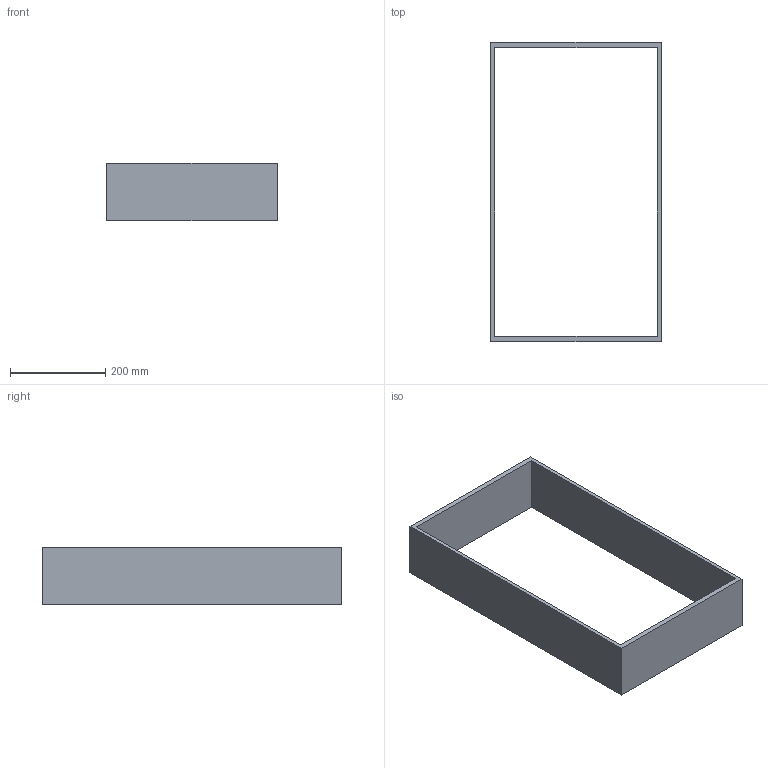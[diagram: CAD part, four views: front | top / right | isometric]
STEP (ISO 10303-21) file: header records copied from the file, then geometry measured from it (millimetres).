
FILE_DESCRIPTION (( 'STEP AP214' ), '1' );
FILE_NAME ('Vario Multi H120 NL650_B450_16 mm_Alu-Buche.step', '2010-10-08T09:47:49', ( 'grass' ), ( '' ), 'SwSTEP 2.0', 'SolidWorks 2010', '' );
FILE_SCHEMA (( 'AUTOMOTIVE_DESIGN' ));
Length unit declared in the file: millimetre
Products named in the file (1): Vario Multi H120 NL650_B450_16 mm_Alu-Buche
Bounding box: 358 x 629 x 120 mm (x, y, z)
Volume: 2110560 mm3; surface area: 499816 mm2
Topology: 1 solids, 1 shells, 10 faces, 24 edges, 16 vertices
Faces by surface type: plane 10
Entity records: 326 total; most frequent: CARTESIAN_POINT 51, ORIENTED_EDGE 48, DIRECTION 46, LINE 24, VECTOR 24, EDGE_CURVE 24, VERTEX_POINT 16, EDGE_LOOP 12
